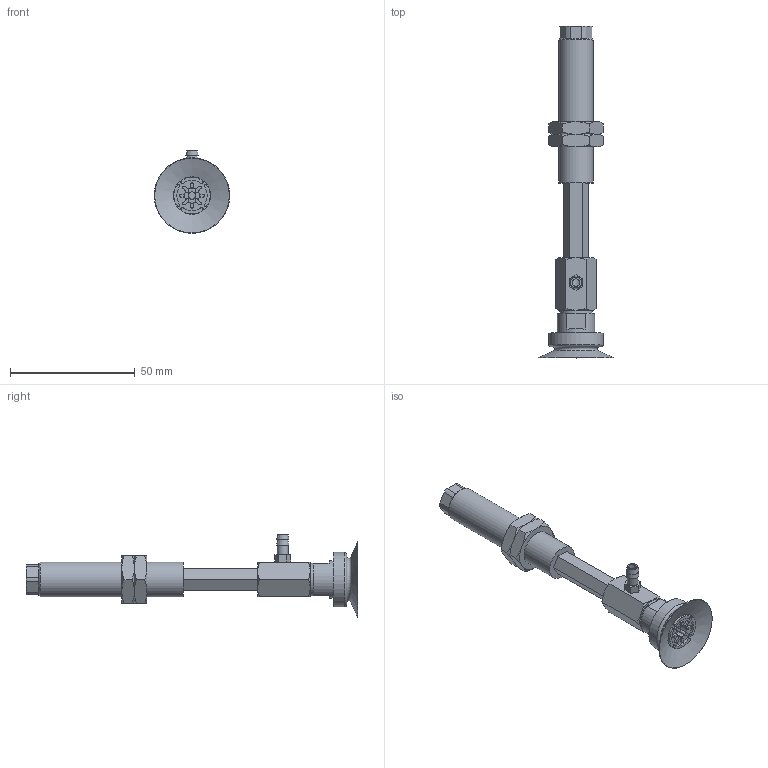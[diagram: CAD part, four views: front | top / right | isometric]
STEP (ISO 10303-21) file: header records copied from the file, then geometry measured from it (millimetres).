
FILE_DESCRIPTION(('STEP AP203'),'1');
FILE_NAME('-T.stp','2025-03-13T08:34:52',(' '),(' '),'Spatial InterOp 3D',' ',' ');
FILE_SCHEMA(('CONFIG_CONTROL_DESIGN'));
Length unit declared in the file: millimetre
Products named in the file (7): BNABPAYH-30-30-※-T; CONNECTOR-30-30-PA; Nut-25-S; NAPAYH-30-30--F; NAPAYH-30-30--M; BPAG-30-※; T
Assembly tree (7 placements, depth 2):
  BNABPAYH-30-30-※-T
    CONNECTOR-30-30-PA
    Nut-25-S  x2
    NAPAYH-30-30--F
    NAPAYH-30-30--M
    BPAG-30-※
    T
Bounding box: 30.3 x 133.2 x 33.15 mm (x, y, z)
Volume: 20125.3 mm3; surface area: 15278.4 mm2
Topology: 7 solids, 7 shells, 226 faces, 519 edges, 328 vertices
Faces by surface type: plane 111, cylinder 59, cone 54, torus 2
Full cylindrical faces by diameter (mm): 3 x3, 4.134 x2, 4.3 x1, 4.6 x1, 4.917 x1, 5 x2, 6 x1, 12.917 x2, 13 x1, 14 x1, 15 x1, 22 x1
Entity records: 6250 total; most frequent: CARTESIAN_POINT 1338, DIRECTION 978, ORIENTED_EDGE 872, EDGE_CURVE 436, AXIS2_PLACEMENT_3D 382, VERTEX_POINT 298, EDGE_LOOP 268, FACE_OUTER_BOUND 221
